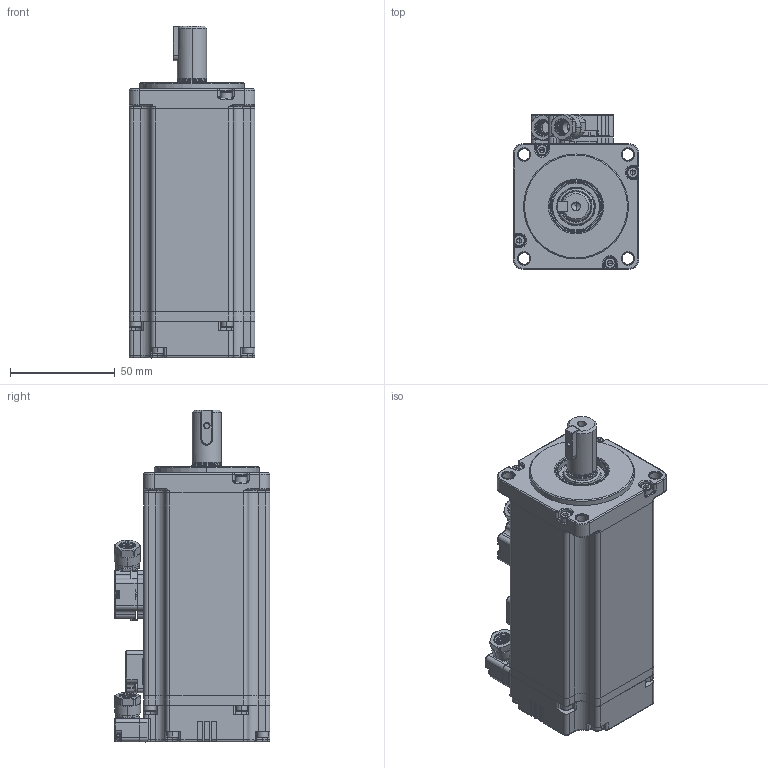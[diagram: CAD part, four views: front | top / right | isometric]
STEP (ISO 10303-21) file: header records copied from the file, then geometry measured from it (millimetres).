
FILE_DESCRIPTION((''),'2;1');
FILE_NAME('MS1H4-40B30CB-A334Z-S_ASM','2019-04-28T15:15:35',('w14852'),(''),'CREO PARAMETRIC BY PTC INC, 2017260','CREO PARAMETRIC BY PTC INC, 2017260','');
FILE_SCHEMA(('CONFIG_CONTROL_DESIGN'));
Products named in the file (50): 31070507-LJ_2_1_1_1; 31040363-ZP_ASM_2_ASM_1_ASM_1_A_ASM; 31150203-1_2_1_1_1; 31160262-1_ASM_2_ASM_1_ASM_1_AS_ASM; 31090647_ASM_2_ASM_1_ASM_1_ASM__ASM; 31150017-LJ-1_2_1_1_1; 31230072-1_ASM_2_ASM_1_ASM_1_AS_ASM; 31160251-1_ASM_2_ASM_1_ASM_1_AS_ASM; 31090517_ASM_2_ASM_1_ASM_1_ASM__ASM; 31150148-LJ-1_2_1_1_1; 31160146-ZP-1_ASM_2_ASM_1_ASM_1_ASM; 31090522_ASM_2_ASM_1_ASM_1_ASM__ASM; 22050005-LJ_2_1_1_1; 15110323_8_2_1_1_1; 15110323_10_2_1_1_1; 15110323_ASM_2_ASM_1_ASM_1_ASM__ASM; 22060548-LJ_2_1_1_1; 22060786_2_1_1_1; 31010462_ASM_2_ASM_1_ASM_1_ASM__ASM; 31740004_2_1_1_1; 22060240_2_1_1_1; 31100214_2_1_1_1; 31100214_1_2_1_1_1; 31100214_2_2_1_1_1; 31100214_ASM_2_ASM_1_ASM_1_ASM__ASM; 31100217_2_1_1_1; 31100218_2_1_1_1; 22060785_2_1_1_1; 22050007-LJ_2_1_1_1; 21E8-370-3976-A1_1_1_1_1_1; 21E8-772-1511-A1_1_1_1_1_1; 21E8-774-1498-P4_1_1_1_1_1; 21E8-900-2468-A1_1_1_1_1_1; 21E8-950-1439-A1_1_1_1_1_1; 21E8-950-1438-A1_1_1_1_1_1; 21E8-005-1072-P4_1_1_1_1; 6PINS_PLUG_ASM_1_ASM_ASM_1_ASM__ASM; 21E8-370-3984-R5_1_1_1_1_1; 21E8-774-1498-A1_1_1_1_1_1; 05-01-1598_1_1_1_1_1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
Assembly tree (68 placements, depth 10):
  MS1H4-40B30CB-A334Z-S_ASM
    MS1H4-40B30CB-A334Z-S_ASM_1_ASM
      MS1H4-40B30CB-A334Z-S_AS-112953_ASM
        MS1H4-40B30CB-A334Z-S_AS-112921_ASM
          01110857_ASM_2_ASM_1_ASM_1_ASM__ASM
            31040363-ZP_ASM_2_ASM_1_ASM_1_A_ASM
              31070507-LJ_2_1_1_1
            31090647_ASM_2_ASM_1_ASM_1_ASM__ASM
              31160262-1_ASM_2_ASM_1_ASM_1_AS_ASM
                31150203-1_2_1_1_1
            31010462_ASM_2_ASM_1_ASM_1_ASM__ASM
              31090517_ASM_2_ASM_1_ASM_1_ASM__ASM
                31160251-1_ASM_2_ASM_1_ASM_1_AS_ASM
                  31230072-1_ASM_2_ASM_1_ASM_1_AS_ASM
              31090522_ASM_2_ASM_1_ASM_1_ASM__ASM
                31160146-ZP-1_ASM_2_ASM_1_ASM_1_ASM
                  31150148-LJ-1_2_1_1_1
              22050005-LJ_2_1_1_1  x4
              15110323_ASM_2_ASM_1_ASM_1_ASM__ASM
                15110323_8_2_1_1_1
                15110323_10_2_1_1_1
              22060548-LJ_2_1_1_1  x2
              22060786_2_1_1_1
            31740004_2_1_1_1
            22060240_2_1_1_1  x2
            22050005-LJ_2_1_1_1  x4
            31100214_ASM_2_ASM_1_ASM_1_ASM__ASM
              31100214_2_1_1_1
              31100214_1_2_1_1_1
              31100214_2_2_1_1_1
            31100217_2_1_1_1
            31100218_2_1_1_1
            22060785_2_1_1_1  x4
            22050007-LJ_2_1_1_1  x3
            6PINS_PLUG_ASM_1_ASM_ASM_1_ASM__ASM
              21E8-370-3976-A1_1_1_1_1_1
              21E8-772-1511-A1_1_1_1_1_1
              21E8-774-1498-P4_1_1_1_1_1
              21E8-900-2468-A1_1_1_1_1_1  x2
              21E8-950-1439-A1_1_1_1_1_1  x2
              21E8-950-1438-A1_1_1_1_1_1  x2
              21E8-005-1072-P4_1_1_1_1
            7PINS_PLUG_ASM_8_ASM_1_ASM_1_AS_ASM
              21E5-904-12686-B1_ASM_4_ASM_1_A_ASM
                21E8-772-1511-A1_1_1_1_1_1
                21E8-370-3984-R5_1_1_1_1_1
                21E8-774-1498-A1_1_1_1_1_1
                05-01-1598_1_1_1_1_1  x2
              21E8-005-1073-P4_1_1_1_1
            1716920106_1_ASM_1_ASM_1_ASM_1_ASM
      22010150--1-SOLI00_1_1_1_1
Bounding box: 60 x 74.1 x 158.1 mm (x, y, z)
Volume: 456077.5 mm3; surface area: 85081.4 mm2
Topology: 49 solids, 59 shells, 3046 faces, 7975 edges, 5101 vertices
Faces by surface type: plane 1620, cylinder 893, torus 279, cone 150, bspline 51, extrusion 39, sphere 14
Entity records: 87170 total; most frequent: CARTESIAN_POINT 21794, DIRECTION 13912, ORIENTED_EDGE 13346, EDGE_CURVE 6689, AXIS2_PLACEMENT_3D 4900, VERTEX_POINT 4317, VECTOR 4112, LINE 4073
